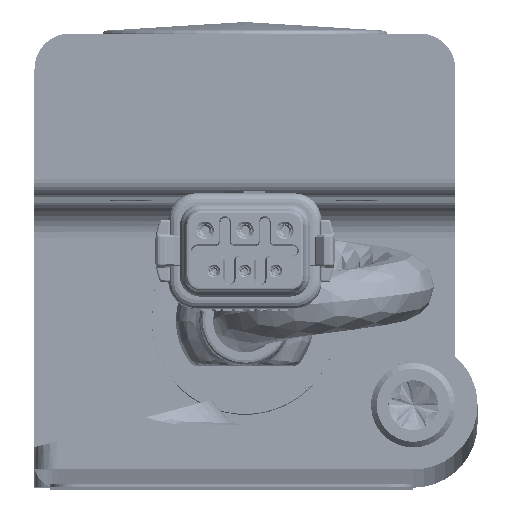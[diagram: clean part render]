
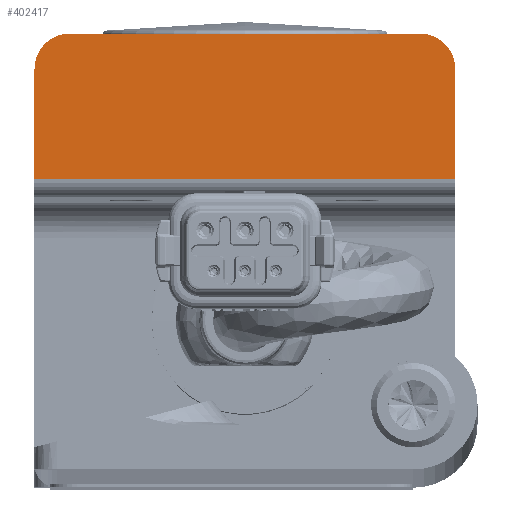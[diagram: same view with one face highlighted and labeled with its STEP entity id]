
A CAD part, top view. The second image highlights one B-rep face of the part: STEP entity #402417.
In plain terms, the highlighted planar face has unit normal (0, 0, 1) as drawn and (0, 0, -1) by its records, which use the part's own axes.
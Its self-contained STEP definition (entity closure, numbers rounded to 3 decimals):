
#18853 = ORIENTED_EDGE ( 'NONE', *, *, #610248, .T. ) ;
#19128 = CARTESIAN_POINT ( 'NONE',  ( -19.75, 16.089, -21.255 ) ) ;
#50108 = CARTESIAN_POINT ( 'NONE',  ( -23.75, 12.089, -21.255 ) ) ;
#51536 = CARTESIAN_POINT ( 'NONE',  ( 23.75, 16.089, -21.255 ) ) ;
#70983 = VERTEX_POINT ( 'NONE', #19128 ) ;
#83075 = CARTESIAN_POINT ( 'NONE',  ( 23.75, -0.362, -21.255 ) ) ;
#100609 = DIRECTION ( 'NONE',  ( 0., 0., 1. ) ) ;
#103605 = ORIENTED_EDGE ( 'NONE', *, *, #416226, .F. ) ;
#123144 = VERTEX_POINT ( 'NONE', #50108 ) ;
#127257 = LINE ( 'NONE', #83075, #562312 ) ;
#135283 = CARTESIAN_POINT ( 'NONE',  ( -23.75, -0.362, -21.255 ) ) ;
#139865 = ORIENTED_EDGE ( 'NONE', *, *, #773117, .T. ) ;
#140154 = VECTOR ( 'NONE', #451745, 1000. ) ;
#156427 = LINE ( 'NONE', #404418, #246774 ) ;
#176002 = CARTESIAN_POINT ( 'NONE',  ( -19.75, 12.089, -21.255 ) ) ;
#189761 = ORIENTED_EDGE ( 'NONE', *, *, #606635, .F. ) ;
#218228 = VECTOR ( 'NONE', #359544, 1000. ) ;
#229910 = VERTEX_POINT ( 'NONE', #740073 ) ;
#246774 = VECTOR ( 'NONE', #352327, 1000. ) ;
#271246 = ORIENTED_EDGE ( 'NONE', *, *, #275463, .T. ) ;
#275463 = EDGE_CURVE ( 'NONE', #229910, #406730, #127257, .T. ) ;
#280435 = EDGE_LOOP ( 'NONE', ( #189761, #271246, #501426, #139865, #103605, #18853 ) ) ;
#287589 = LINE ( 'NONE', #710962, #140154 ) ;
#288944 = AXIS2_PLACEMENT_3D ( 'NONE', #404694, #100609, #344697 ) ;
#313233 = CARTESIAN_POINT ( 'NONE',  ( 19.75, 12.089, -21.255 ) ) ;
#328802 = CARTESIAN_POINT ( 'NONE',  ( 19.75, 16.089, -21.255 ) ) ;
#344697 = DIRECTION ( 'NONE',  ( 0., -1., 0. ) ) ;
#352327 = DIRECTION ( 'NONE',  ( 0., 1., 0. ) ) ;
#359544 = DIRECTION ( 'NONE',  ( -1., 0., 0. ) ) ;
#367187 = CIRCLE ( 'NONE', #546234, 4. ) ;
#402417 = ADVANCED_FACE ( 'NONE', ( #472451 ), #408580, .F. ) ;
#404418 = CARTESIAN_POINT ( 'NONE',  ( 23.75, -3., -21.255 ) ) ;
#404694 = CARTESIAN_POINT ( 'NONE',  ( 23.75, -3., -21.255 ) ) ;
#406730 = VERTEX_POINT ( 'NONE', #135283 ) ;
#408580 = PLANE ( 'NONE',  #288944 ) ;
#416226 = EDGE_CURVE ( 'NONE', #520694, #70983, #778760, .T. ) ;
#429200 = DIRECTION ( 'NONE',  ( 0., 0., -1. ) ) ;
#439228 = DIRECTION ( 'NONE',  ( -1., 0., 0. ) ) ;
#451745 = DIRECTION ( 'NONE',  ( 0., 1., 0. ) ) ;
#472451 = FACE_OUTER_BOUND ( 'NONE', #280435, .T. ) ;
#492055 = EDGE_CURVE ( 'NONE', #406730, #123144, #287589, .T. ) ;
#493012 = DIRECTION ( 'NONE',  ( 0., -1., 0. ) ) ;
#495919 = CIRCLE ( 'NONE', #648755, 4. ) ;
#499468 = DIRECTION ( 'NONE',  ( 0., -1., 0. ) ) ;
#500047 = CARTESIAN_POINT ( 'NONE',  ( 23.75, 12.089, -21.255 ) ) ;
#501426 = ORIENTED_EDGE ( 'NONE', *, *, #492055, .T. ) ;
#520694 = VERTEX_POINT ( 'NONE', #328802 ) ;
#546234 = AXIS2_PLACEMENT_3D ( 'NONE', #313233, #429200, #493012 ) ;
#562312 = VECTOR ( 'NONE', #439228, 1000. ) ;
#606635 = EDGE_CURVE ( 'NONE', #229910, #729846, #156427, .T. ) ;
#610248 = EDGE_CURVE ( 'NONE', #520694, #729846, #367187, .T. ) ;
#648755 = AXIS2_PLACEMENT_3D ( 'NONE', #176002, #735069, #499468 ) ;
#710962 = CARTESIAN_POINT ( 'NONE',  ( -23.75, -3., -21.255 ) ) ;
#729846 = VERTEX_POINT ( 'NONE', #500047 ) ;
#735069 = DIRECTION ( 'NONE',  ( 0., 0., -1. ) ) ;
#740073 = CARTESIAN_POINT ( 'NONE',  ( 23.75, -0.362, -21.255 ) ) ;
#773117 = EDGE_CURVE ( 'NONE', #123144, #70983, #495919, .T. ) ;
#778760 = LINE ( 'NONE', #51536, #218228 ) ;
